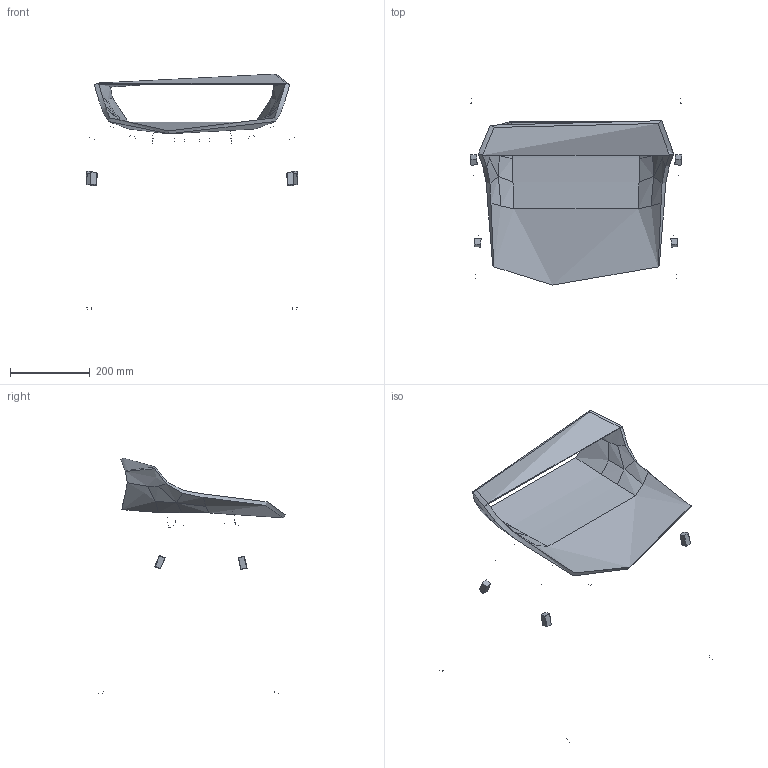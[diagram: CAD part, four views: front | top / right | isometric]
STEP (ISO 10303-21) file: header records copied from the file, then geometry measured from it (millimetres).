
FILE_DESCRIPTION(/* description */ (''),/* implementation_level */ '2;1');
FILE_NAME(/* name */ 'Lotus konf',/* time_stamp */ '2024-05-23T13:52:43+02:00',/* author */ (''),/* organization */ (''),/* preprocessor_version */ 'ST-DEVELOPER v16.5',/* originating_system */ 'Rhino 7.36',/* authorisation */ '');
FILE_SCHEMA (('CONFIG_CONTROL_DESIGN'));
Length unit declared in the file: millimetre
Products named in the file (1): Document
Bounding box: 530.54 x 467.92 x 591.15 mm (x, y, z)
Volume: 3568022.5 mm3; surface area: 852544.8 mm2
Topology: 6 solids, 20 shells, 130 faces, 321 edges, 202 vertices
Faces by surface type: bspline 64, cylinder 38, plane 28
Full cylindrical faces by diameter (mm): 14 x4, 16 x4, 18 x18
Entity records: 14750 total; most frequent: CARTESIAN_POINT 12656, ORIENTED_EDGE 600, EDGE_CURVE 310, B_SPLINE_CURVE_WITH_KNOTS 209, VERTEX_POINT 200, ADVANCED_FACE 130, FACE_OUTER_BOUND 130, EDGE_LOOP 130
